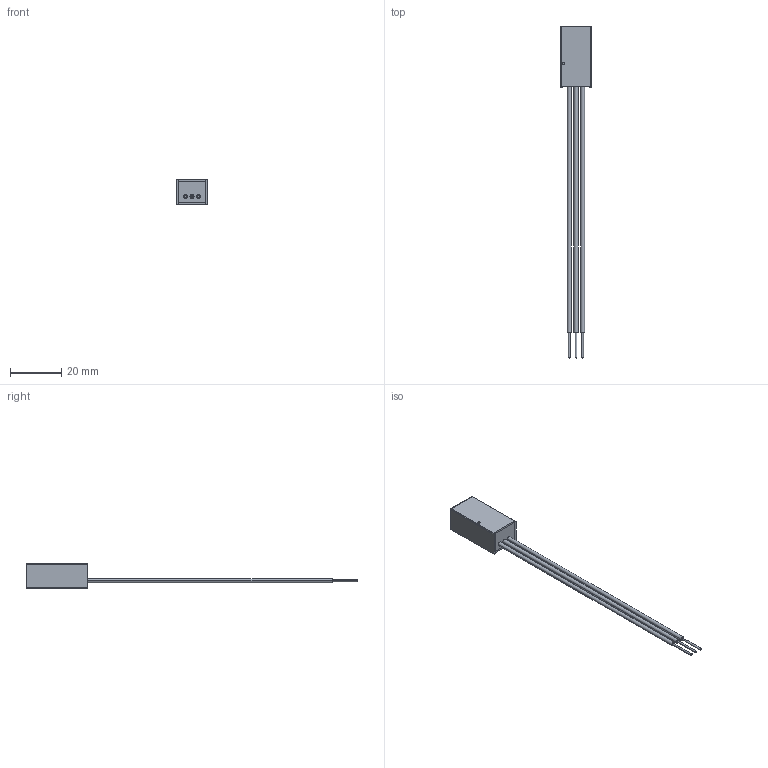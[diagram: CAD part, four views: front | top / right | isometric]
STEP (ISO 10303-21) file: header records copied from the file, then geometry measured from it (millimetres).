
FILE_DESCRIPTION(('FreeCAD Model'),'2;1');
FILE_NAME('X:/Application Engineering/4 Documentation/3 Users/1 MaS/3D and 2D Projekt/R-78HB-0.5_W_3D_20190826.STEP','2019-08-26T13:28:57',('Author'), (''),'Open CASCADE STEP processor 7.3','FreeCAD','Unknown');
FILE_SCHEMA(('AUTOMOTIVE_DESIGN { 1 0 10303 214 1 1 1 1 }'));
Length unit declared in the file: millimetre
Products named in the file (5): R-78HB-0.5_W_case; R-78HB-0.5_W_wire3(+Vout); R-78HB-0.5_W_wire1(+Vin); R-78HB-0.5_W_wire2(GND); R-78HB-0.5_W_potting
Bounding box: 12.1 x 129 x 9.81 mm (x, y, z)
Volume: 3355.5 mm3; surface area: 4682 mm2
Topology: 5 solids, 5 shells, 71 faces, 149 edges, 92 vertices
Faces by surface type: plane 33, cylinder 30, sphere 8
Entity records: 2408 total; most frequent: DIRECTION 357, CARTESIAN_POINT 313, ORIENTED_EDGE 298, EDGE_CURVE 149, AXIS2_PLACEMENT_3D 136, VERTEX_POINT 92, LINE 85, VECTOR 85
